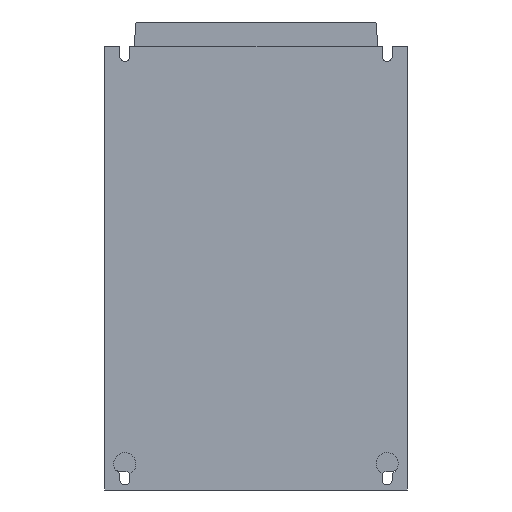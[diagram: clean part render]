
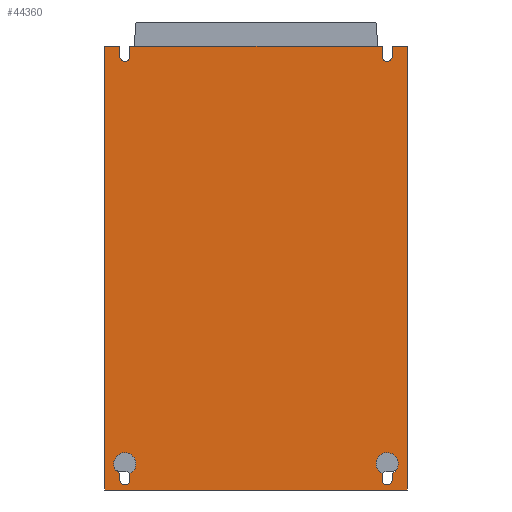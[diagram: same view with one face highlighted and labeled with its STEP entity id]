
A CAD part, front view. The second image highlights one B-rep face of the part: STEP entity #44360.
In plain terms, the highlighted planar face has unit normal (0, -1, 0).
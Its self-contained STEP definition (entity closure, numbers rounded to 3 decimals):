
#198=DIRECTION('',(0.,0.,1.));
#199=VECTOR('',#198,220.);
#200=CARTESIAN_POINT('',(75.,0.,0.));
#201=LINE('',#200,#199);
#7795=DIRECTION('',(0.,0.,-1.));
#7796=VECTOR('',#7795,220.);
#7797=CARTESIAN_POINT('',(-75.,0.,220.));
#7798=LINE('',#7797,#7796);
#8218=DIRECTION('',(1.,0.,0.));
#8219=VECTOR('',#8218,150.);
#8220=CARTESIAN_POINT('',(-75.,0.,0.));
#8221=LINE('',#8220,#8219);
#8340=CARTESIAN_POINT('',(65.,0.,215.));
#8341=DIRECTION('',(0.,-1.,0.));
#8342=DIRECTION('',(-1.,0.,0.));
#8343=AXIS2_PLACEMENT_3D('',#8340,#8341,#8342);
#8345=CARTESIAN_POINT('',(-65.,0.,215.));
#8346=DIRECTION('',(0.,-1.,0.));
#8347=DIRECTION('',(-1.,0.,0.));
#8348=AXIS2_PLACEMENT_3D('',#8345,#8346,#8347);
#8350=CARTESIAN_POINT('',(-65.,0.,5.));
#8351=DIRECTION('',(0.,-1.,0.));
#8352=DIRECTION('',(-1.,0.,0.));
#8353=AXIS2_PLACEMENT_3D('',#8350,#8351,#8352);
#8355=CARTESIAN_POINT('',(-65.,0.,13.));
#8356=DIRECTION('',(0.,-1.,0.));
#8357=DIRECTION('',(0.455,0.,-0.891));
#8358=AXIS2_PLACEMENT_3D('',#8355,#8356,#8357);
#8360=CARTESIAN_POINT('',(-65.,0.,13.));
#8361=DIRECTION('',(0.,-1.,0.));
#8362=DIRECTION('',(-1.,0.,0.));
#8363=AXIS2_PLACEMENT_3D('',#8360,#8361,#8362);
#8365=CARTESIAN_POINT('',(65.,0.,13.));
#8366=DIRECTION('',(0.,-1.,0.));
#8367=DIRECTION('',(0.455,0.,-0.891));
#8368=AXIS2_PLACEMENT_3D('',#8365,#8366,#8367);
#8370=CARTESIAN_POINT('',(65.,0.,13.));
#8371=DIRECTION('',(0.,-1.,0.));
#8372=DIRECTION('',(-1.,0.,0.));
#8373=AXIS2_PLACEMENT_3D('',#8370,#8371,#8372);
#8375=CARTESIAN_POINT('',(65.,0.,5.));
#8376=DIRECTION('',(0.,-1.,0.));
#8377=DIRECTION('',(-1.,0.,0.));
#8378=AXIS2_PLACEMENT_3D('',#8375,#8376,#8377);
#8380=DIRECTION('',(0.,0.,1.));
#8381=VECTOR('',#8380,5.);
#8382=CARTESIAN_POINT('',(62.5,0.,215.));
#8383=LINE('',#8382,#8381);
#8392=DIRECTION('',(-1.,0.,0.));
#8393=VECTOR('',#8392,125.);
#8394=CARTESIAN_POINT('',(62.5,0.,220.));
#8395=LINE('',#8394,#8393);
#8636=DIRECTION('',(0.,0.,-1.));
#8637=VECTOR('',#8636,5.);
#8638=CARTESIAN_POINT('',(-62.5,0.,220.));
#8639=LINE('',#8638,#8637);
#8656=DIRECTION('',(0.,0.,1.));
#8657=VECTOR('',#8656,5.);
#8658=CARTESIAN_POINT('',(-67.5,0.,215.));
#8659=LINE('',#8658,#8657);
#8668=DIRECTION('',(-1.,0.,0.));
#8669=VECTOR('',#8668,7.5);
#8670=CARTESIAN_POINT('',(-67.5,0.,220.));
#8671=LINE('',#8670,#8669);
#8768=DIRECTION('',(-1.,0.,0.));
#8769=VECTOR('',#8768,7.5);
#8770=CARTESIAN_POINT('',(75.,0.,220.));
#8771=LINE('',#8770,#8769);
#8772=DIRECTION('',(0.,0.,-1.));
#8773=VECTOR('',#8772,5.);
#8774=CARTESIAN_POINT('',(67.5,0.,220.));
#8775=LINE('',#8774,#8773);
#9796=DIRECTION('',(0.,0.,-1.));
#9797=VECTOR('',#9796,3.101);
#9798=CARTESIAN_POINT('',(-62.5,0.,8.101));
#9799=LINE('',#9798,#9797);
#9816=DIRECTION('',(0.,0.,1.));
#9817=VECTOR('',#9816,3.101);
#9818=CARTESIAN_POINT('',(-67.5,0.,5.));
#9819=LINE('',#9818,#9817);
#9828=DIRECTION('',(0.,0.,-1.));
#9829=VECTOR('',#9828,3.101);
#9830=CARTESIAN_POINT('',(67.5,0.,8.101));
#9831=LINE('',#9830,#9829);
#9840=DIRECTION('',(0.,0.,1.));
#9841=VECTOR('',#9840,3.101);
#9842=CARTESIAN_POINT('',(62.5,0.,5.));
#9843=LINE('',#9842,#9841);
#25995=CARTESIAN_POINT('',(62.5,0.,215.));
#25996=CARTESIAN_POINT('',(67.5,0.,215.));
#25997=VERTEX_POINT('',#25995);
#25998=VERTEX_POINT('',#25996);
#25999=CARTESIAN_POINT('',(67.5,0.,220.));
#26000=VERTEX_POINT('',#25999);
#26001=CARTESIAN_POINT('',(75.,0.,220.));
#26002=VERTEX_POINT('',#26001);
#26003=CARTESIAN_POINT('',(75.,0.,0.));
#26004=VERTEX_POINT('',#26003);
#26005=CARTESIAN_POINT('',(-75.,0.,0.));
#26006=VERTEX_POINT('',#26005);
#26007=CARTESIAN_POINT('',(-75.,0.,220.));
#26008=VERTEX_POINT('',#26007);
#26009=CARTESIAN_POINT('',(-67.5,0.,220.));
#26010=VERTEX_POINT('',#26009);
#26011=CARTESIAN_POINT('',(-67.5,0.,215.));
#26012=VERTEX_POINT('',#26011);
#26013=CARTESIAN_POINT('',(-62.5,0.,215.));
#26014=VERTEX_POINT('',#26013);
#26015=CARTESIAN_POINT('',(-62.5,0.,220.));
#26016=VERTEX_POINT('',#26015);
#26017=CARTESIAN_POINT('',(62.5,0.,220.));
#26018=VERTEX_POINT('',#26017);
#26019=CARTESIAN_POINT('',(-67.5,0.,5.));
#26020=CARTESIAN_POINT('',(-62.5,0.,5.));
#26021=VERTEX_POINT('',#26019);
#26022=VERTEX_POINT('',#26020);
#26023=CARTESIAN_POINT('',(-62.5,0.,8.101));
#26024=VERTEX_POINT('',#26023);
#26025=CARTESIAN_POINT('',(-70.5,0.,13.));
#26026=VERTEX_POINT('',#26025);
#26027=CARTESIAN_POINT('',(-67.5,0.,8.101));
#26028=VERTEX_POINT('',#26027);
#26029=CARTESIAN_POINT('',(67.5,0.,8.101));
#26030=CARTESIAN_POINT('',(67.5,0.,5.));
#26031=VERTEX_POINT('',#26029);
#26032=VERTEX_POINT('',#26030);
#26033=CARTESIAN_POINT('',(59.5,0.,13.));
#26034=VERTEX_POINT('',#26033);
#26035=CARTESIAN_POINT('',(62.5,0.,8.101));
#26036=VERTEX_POINT('',#26035);
#26037=CARTESIAN_POINT('',(62.5,0.,5.));
#26038=VERTEX_POINT('',#26037);
#44309=CARTESIAN_POINT('',(0.,0.,110.));
#44310=DIRECTION('',(0.,1.,0.));
#44311=DIRECTION('',(1.,0.,0.));
#44312=AXIS2_PLACEMENT_3D('',#44309,#44310,#44311);
#44313=PLANE('',#44312);
#44315=ORIENTED_EDGE('',*,*,#44314,.T.);
#44317=ORIENTED_EDGE('',*,*,#44316,.F.);
#44319=ORIENTED_EDGE('',*,*,#44318,.F.);
#44320=ORIENTED_EDGE('',*,*,#31945,.F.);
#44321=ORIENTED_EDGE('',*,*,#43909,.F.);
#44322=ORIENTED_EDGE('',*,*,#43159,.F.);
#44324=ORIENTED_EDGE('',*,*,#44323,.F.);
#44326=ORIENTED_EDGE('',*,*,#44325,.F.);
#44328=ORIENTED_EDGE('',*,*,#44327,.T.);
#44330=ORIENTED_EDGE('',*,*,#44329,.F.);
#44332=ORIENTED_EDGE('',*,*,#44331,.F.);
#44334=ORIENTED_EDGE('',*,*,#44333,.F.);
#44335=EDGE_LOOP('',(#44315,#44317,#44319,#44320,#44321,#44322,#44324,#44326,
#44328,#44330,#44332,#44334));
#44336=FACE_OUTER_BOUND('',#44335,.F.);
#44337=ORIENTED_EDGE('',*,*,#44299,.T.);
#44339=ORIENTED_EDGE('',*,*,#44338,.F.);
#44341=ORIENTED_EDGE('',*,*,#44340,.T.);
#44343=ORIENTED_EDGE('',*,*,#44342,.T.);
#44345=ORIENTED_EDGE('',*,*,#44344,.F.);
#44346=EDGE_LOOP('',(#44337,#44339,#44341,#44343,#44345));
#44347=FACE_BOUND('',#44346,.F.);
#44349=ORIENTED_EDGE('',*,*,#44348,.F.);
#44351=ORIENTED_EDGE('',*,*,#44350,.T.);
#44353=ORIENTED_EDGE('',*,*,#44352,.T.);
#44355=ORIENTED_EDGE('',*,*,#44354,.F.);
#44357=ORIENTED_EDGE('',*,*,#44356,.T.);
#44358=EDGE_LOOP('',(#44349,#44351,#44353,#44355,#44357));
#44359=FACE_BOUND('',#44358,.F.);
#8344=CIRCLE('',#8343,2.5);
#8349=CIRCLE('',#8348,2.5);
#8354=CIRCLE('',#8353,2.5);
#8359=CIRCLE('',#8358,5.5);
#8364=CIRCLE('',#8363,5.5);
#8369=CIRCLE('',#8368,5.5);
#8374=CIRCLE('',#8373,5.5);
#8379=CIRCLE('',#8378,2.5);
#31945=EDGE_CURVE('',#26004,#26002,#201,.T.);
#43159=EDGE_CURVE('',#26008,#26006,#7798,.T.);
#43909=EDGE_CURVE('',#26006,#26004,#8221,.T.);
#44299=EDGE_CURVE('',#26021,#26022,#8354,.T.);
#44314=EDGE_CURVE('',#25997,#25998,#8344,.T.);
#44316=EDGE_CURVE('',#26000,#25998,#8775,.T.);
#44318=EDGE_CURVE('',#26002,#26000,#8771,.T.);
#44323=EDGE_CURVE('',#26010,#26008,#8671,.T.);
#44325=EDGE_CURVE('',#26012,#26010,#8659,.T.);
#44327=EDGE_CURVE('',#26012,#26014,#8349,.T.);
#44329=EDGE_CURVE('',#26016,#26014,#8639,.T.);
#44331=EDGE_CURVE('',#26018,#26016,#8395,.T.);
#44333=EDGE_CURVE('',#25997,#26018,#8383,.T.);
#44338=EDGE_CURVE('',#26024,#26022,#9799,.T.);
#44340=EDGE_CURVE('',#26024,#26026,#8359,.T.);
#44342=EDGE_CURVE('',#26026,#26028,#8364,.T.);
#44344=EDGE_CURVE('',#26021,#26028,#9819,.T.);
#44348=EDGE_CURVE('',#26031,#26032,#9831,.T.);
#44350=EDGE_CURVE('',#26031,#26034,#8369,.T.);
#44352=EDGE_CURVE('',#26034,#26036,#8374,.T.);
#44354=EDGE_CURVE('',#26038,#26036,#9843,.T.);
#44356=EDGE_CURVE('',#26038,#26032,#8379,.T.);
#44360=ADVANCED_FACE('',(#44336,#44347,#44359),#44313,.F.);
